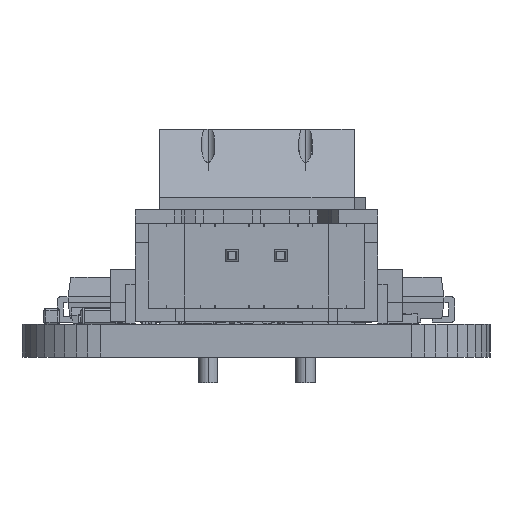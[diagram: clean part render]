
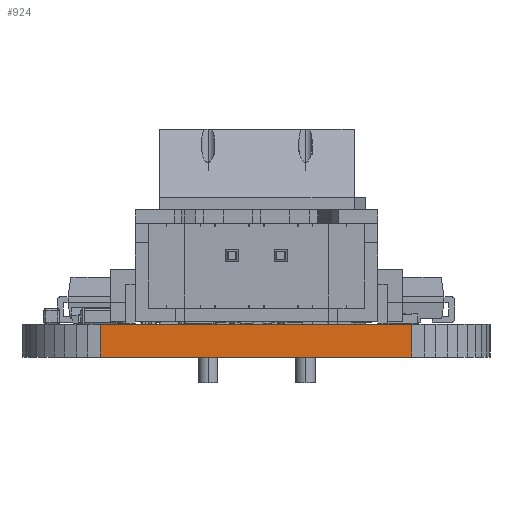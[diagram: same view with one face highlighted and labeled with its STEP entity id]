
A CAD part, front view. The second image highlights one B-rep face of the part: STEP entity #924.
In plain terms, the highlighted planar face has unit normal (0, -1, 0).
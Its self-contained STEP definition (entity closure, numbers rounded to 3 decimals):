
#175 = PLANE('',#176);
#176 = AXIS2_PLACEMENT_3D('',#177,#178,#179);
#177 = CARTESIAN_POINT('',(-12.012,-7.,1.691));
#178 = DIRECTION('',(0.,0.,-1.));
#179 = DIRECTION('',(-1.,0.,0.));
#229 = PLANE('',#230);
#230 = AXIS2_PLACEMENT_3D('',#231,#232,#233);
#231 = CARTESIAN_POINT('',(-12.012,-7.,0.));
#232 = DIRECTION('',(0.,0.,-1.));
#233 = DIRECTION('',(-1.,0.,0.));
#816 = PLANE('',#817);
#817 = AXIS2_PLACEMENT_3D('',#818,#819,#820);
#818 = CARTESIAN_POINT('',(-8.628,-10.963,0.));
#819 = DIRECTION('',(0.072,0.997,0.));
#820 = DIRECTION('',(0.997,-0.072,0.));
#854 = VERTEX_POINT('',#855);
#855 = CARTESIAN_POINT('',(-8.,-11.009,1.691));
#876 = EDGE_CURVE('',#877,#854,#879,.T.);
#877 = VERTEX_POINT('',#878);
#878 = CARTESIAN_POINT('',(-8.,-11.009,0.));
#879 = SURFACE_CURVE('',#880,(#884,#891),.PCURVE_S1.);
#880 = LINE('',#881,#882);
#881 = CARTESIAN_POINT('',(-8.,-11.009,0.));
#882 = VECTOR('',#883,1.);
#883 = DIRECTION('',(0.,0.,1.));
#884 = PCURVE('',#816,#885);
#885 = DEFINITIONAL_REPRESENTATION('',(#886),#890);
#886 = LINE('',#887,#888);
#887 = CARTESIAN_POINT('',(0.629,0.));
#888 = VECTOR('',#889,1.);
#889 = DIRECTION('',(0.,-1.));
#890 = ( GEOMETRIC_REPRESENTATION_CONTEXT(2) 
PARAMETRIC_REPRESENTATION_CONTEXT() REPRESENTATION_CONTEXT('2D SPACE',''
  ) );
#891 = PCURVE('',#892,#897);
#892 = PLANE('',#893);
#893 = AXIS2_PLACEMENT_3D('',#894,#895,#896);
#894 = CARTESIAN_POINT('',(-8.,-11.009,0.));
#895 = DIRECTION('',(0.,1.,0.));
#896 = DIRECTION('',(1.,0.,0.));
#897 = DEFINITIONAL_REPRESENTATION('',(#898),#902);
#898 = LINE('',#899,#900);
#899 = CARTESIAN_POINT('',(0.,0.));
#900 = VECTOR('',#901,1.);
#901 = DIRECTION('',(0.,-1.));
#902 = ( GEOMETRIC_REPRESENTATION_CONTEXT(2) 
PARAMETRIC_REPRESENTATION_CONTEXT() REPRESENTATION_CONTEXT('2D SPACE',''
  ) );
#924 = ADVANCED_FACE('',(#925),#892,.F.);
#925 = FACE_BOUND('',#926,.F.);
#926 = EDGE_LOOP('',(#927,#928,#951,#979));
#927 = ORIENTED_EDGE('',*,*,#876,.T.);
#928 = ORIENTED_EDGE('',*,*,#929,.T.);
#929 = EDGE_CURVE('',#854,#930,#932,.T.);
#930 = VERTEX_POINT('',#931);
#931 = CARTESIAN_POINT('',(8.,-11.012,1.691));
#932 = SURFACE_CURVE('',#933,(#937,#944),.PCURVE_S1.);
#933 = LINE('',#934,#935);
#934 = CARTESIAN_POINT('',(-8.,-11.009,1.691));
#935 = VECTOR('',#936,1.);
#936 = DIRECTION('',(1.,0.,0.));
#937 = PCURVE('',#892,#938);
#938 = DEFINITIONAL_REPRESENTATION('',(#939),#943);
#939 = LINE('',#940,#941);
#940 = CARTESIAN_POINT('',(0.,-1.691));
#941 = VECTOR('',#942,1.);
#942 = DIRECTION('',(1.,0.));
#943 = ( GEOMETRIC_REPRESENTATION_CONTEXT(2) 
PARAMETRIC_REPRESENTATION_CONTEXT() REPRESENTATION_CONTEXT('2D SPACE',''
  ) );
#944 = PCURVE('',#175,#945);
#945 = DEFINITIONAL_REPRESENTATION('',(#946),#950);
#946 = LINE('',#947,#948);
#947 = CARTESIAN_POINT('',(-4.012,-4.009));
#948 = VECTOR('',#949,1.);
#949 = DIRECTION('',(-1.,0.));
#950 = ( GEOMETRIC_REPRESENTATION_CONTEXT(2) 
PARAMETRIC_REPRESENTATION_CONTEXT() REPRESENTATION_CONTEXT('2D SPACE',''
  ) );
#951 = ORIENTED_EDGE('',*,*,#952,.F.);
#952 = EDGE_CURVE('',#953,#930,#955,.T.);
#953 = VERTEX_POINT('',#954);
#954 = CARTESIAN_POINT('',(8.,-11.012,0.));
#955 = SURFACE_CURVE('',#956,(#960,#967),.PCURVE_S1.);
#956 = LINE('',#957,#958);
#957 = CARTESIAN_POINT('',(8.,-11.012,0.));
#958 = VECTOR('',#959,1.);
#959 = DIRECTION('',(0.,0.,1.));
#960 = PCURVE('',#892,#961);
#961 = DEFINITIONAL_REPRESENTATION('',(#962),#966);
#962 = LINE('',#963,#964);
#963 = CARTESIAN_POINT('',(16.,0.));
#964 = VECTOR('',#965,1.);
#965 = DIRECTION('',(0.,-1.));
#966 = ( GEOMETRIC_REPRESENTATION_CONTEXT(2) 
PARAMETRIC_REPRESENTATION_CONTEXT() REPRESENTATION_CONTEXT('2D SPACE',''
  ) );
#967 = PCURVE('',#968,#973);
#968 = PLANE('',#969);
#969 = AXIS2_PLACEMENT_3D('',#970,#971,#972);
#970 = CARTESIAN_POINT('',(8.,-11.012,0.));
#971 = DIRECTION('',(-0.078,0.997,0.));
#972 = DIRECTION('',(0.997,0.078,0.));
#973 = DEFINITIONAL_REPRESENTATION('',(#974),#978);
#974 = LINE('',#975,#976);
#975 = CARTESIAN_POINT('',(0.,0.));
#976 = VECTOR('',#977,1.);
#977 = DIRECTION('',(0.,-1.));
#978 = ( GEOMETRIC_REPRESENTATION_CONTEXT(2) 
PARAMETRIC_REPRESENTATION_CONTEXT() REPRESENTATION_CONTEXT('2D SPACE',''
  ) );
#979 = ORIENTED_EDGE('',*,*,#980,.F.);
#980 = EDGE_CURVE('',#877,#953,#981,.T.);
#981 = SURFACE_CURVE('',#982,(#986,#993),.PCURVE_S1.);
#982 = LINE('',#983,#984);
#983 = CARTESIAN_POINT('',(-8.,-11.009,0.));
#984 = VECTOR('',#985,1.);
#985 = DIRECTION('',(1.,0.,0.));
#986 = PCURVE('',#892,#987);
#987 = DEFINITIONAL_REPRESENTATION('',(#988),#992);
#988 = LINE('',#989,#990);
#989 = CARTESIAN_POINT('',(0.,0.));
#990 = VECTOR('',#991,1.);
#991 = DIRECTION('',(1.,0.));
#992 = ( GEOMETRIC_REPRESENTATION_CONTEXT(2) 
PARAMETRIC_REPRESENTATION_CONTEXT() REPRESENTATION_CONTEXT('2D SPACE',''
  ) );
#993 = PCURVE('',#229,#994);
#994 = DEFINITIONAL_REPRESENTATION('',(#995),#999);
#995 = LINE('',#996,#997);
#996 = CARTESIAN_POINT('',(-4.012,-4.009));
#997 = VECTOR('',#998,1.);
#998 = DIRECTION('',(-1.,0.));
#999 = ( GEOMETRIC_REPRESENTATION_CONTEXT(2) 
PARAMETRIC_REPRESENTATION_CONTEXT() REPRESENTATION_CONTEXT('2D SPACE',''
  ) );
